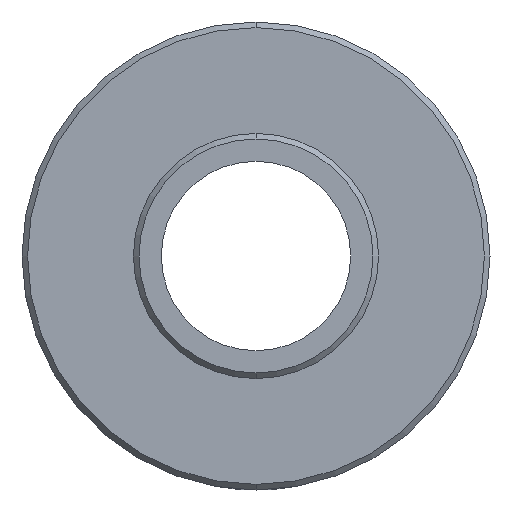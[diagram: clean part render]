
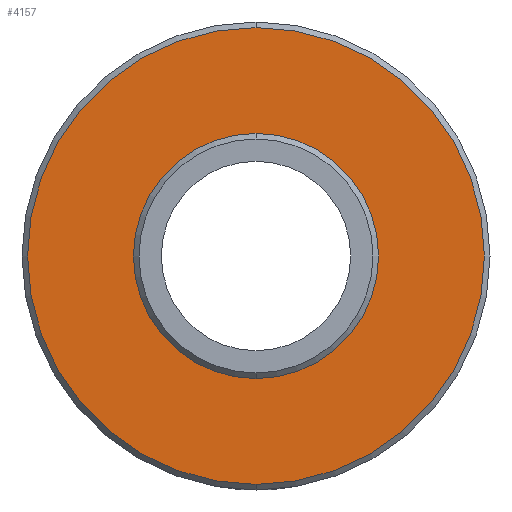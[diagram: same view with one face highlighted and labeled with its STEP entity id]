
A CAD part, front view. The second image highlights one B-rep face of the part: STEP entity #4157.
In plain terms, the highlighted planar face has unit normal (0, -1, 0).
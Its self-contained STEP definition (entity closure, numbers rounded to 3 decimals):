
#237 = CIRCLE ( 'NONE', #3718, 10. ) ;
#370 = DIRECTION ( 'NONE',  ( 0., -1., 0. ) ) ;
#380 = ORIENTED_EDGE ( 'NONE', *, *, #435, .T. ) ;
#435 = EDGE_CURVE ( 'NONE', #3102, #3084, #2166, .T. ) ;
#626 = ORIENTED_EDGE ( 'NONE', *, *, #3876, .T. ) ;
#667 = DIRECTION ( 'NONE',  ( 0., -1., 0. ) ) ;
#791 = DIRECTION ( 'NONE',  ( 0., 0., -1. ) ) ;
#922 = CARTESIAN_POINT ( 'NONE',  ( 20.88, -3.94, 0.982 ) ) ;
#1154 = FACE_OUTER_BOUND ( 'NONE', #1203, .T. ) ;
#1203 = EDGE_LOOP ( 'NONE', ( #626, #380 ) ) ;
#1297 = ORIENTED_EDGE ( 'NONE', *, *, #3058, .F. ) ;
#1355 = CARTESIAN_POINT ( 'NONE',  ( 0.38, -3.94, 0.982 ) ) ;
#1560 = ORIENTED_EDGE ( 'NONE', *, *, #1581, .F. ) ;
#1581 = EDGE_CURVE ( 'NONE', #1985, #2929, #1861, .T. ) ;
#1588 = AXIS2_PLACEMENT_3D ( 'NONE', #4130, #667, #2037 ) ;
#1861 = CIRCLE ( 'NONE', #1588, 10. ) ;
#1905 = AXIS2_PLACEMENT_3D ( 'NONE', #2755, #370, #3403 ) ;
#1917 = DIRECTION ( 'NONE',  ( 0., -1., 0. ) ) ;
#1985 = VERTEX_POINT ( 'NONE', #4310 ) ;
#1999 = EDGE_LOOP ( 'NONE', ( #1297, #1560 ) ) ;
#2001 = DIRECTION ( 'NONE',  ( 0., -1., 0. ) ) ;
#2037 = DIRECTION ( 'NONE',  ( 0., 0., -1. ) ) ;
#2123 = DIRECTION ( 'NONE',  ( 0., -1., 0. ) ) ;
#2166 = CIRCLE ( 'NONE', #3368, 20.5 ) ;
#2393 = CARTESIAN_POINT ( 'NONE',  ( 0.38, -3.94, -9.018 ) ) ;
#2662 = CIRCLE ( 'NONE', #1905, 20.5 ) ;
#2706 = DIRECTION ( 'NONE',  ( 0., 0., -1. ) ) ;
#2755 = CARTESIAN_POINT ( 'NONE',  ( 0.38, -3.94, 0.982 ) ) ;
#2816 = CARTESIAN_POINT ( 'NONE',  ( 0.38, -3.94, -19.518 ) ) ;
#2929 = VERTEX_POINT ( 'NONE', #2393 ) ;
#2930 = FACE_BOUND ( 'NONE', #1999, .T. ) ;
#3058 = EDGE_CURVE ( 'NONE', #2929, #1985, #237, .T. ) ;
#3084 = VERTEX_POINT ( 'NONE', #3527 ) ;
#3102 = VERTEX_POINT ( 'NONE', #2816 ) ;
#3289 = DIRECTION ( 'NONE',  ( 0., 0., -1. ) ) ;
#3368 = AXIS2_PLACEMENT_3D ( 'NONE', #3413, #2001, #2706 ) ;
#3403 = DIRECTION ( 'NONE',  ( 0., 0., -1. ) ) ;
#3413 = CARTESIAN_POINT ( 'NONE',  ( 0.38, -3.94, 0.982 ) ) ;
#3527 = CARTESIAN_POINT ( 'NONE',  ( 0.38, -3.94, 21.482 ) ) ;
#3625 = PLANE ( 'NONE',  #3894 ) ;
#3718 = AXIS2_PLACEMENT_3D ( 'NONE', #1355, #2123, #791 ) ;
#3876 = EDGE_CURVE ( 'NONE', #3084, #3102, #2662, .T. ) ;
#3894 = AXIS2_PLACEMENT_3D ( 'NONE', #922, #1917, #3289 ) ;
#4130 = CARTESIAN_POINT ( 'NONE',  ( 0.38, -3.94, 0.982 ) ) ;
#4157 = ADVANCED_FACE ( 'NONE', ( #1154, #2930 ), #3625, .T. ) ;
#4310 = CARTESIAN_POINT ( 'NONE',  ( 0.38, -3.94, 10.982 ) ) ;
